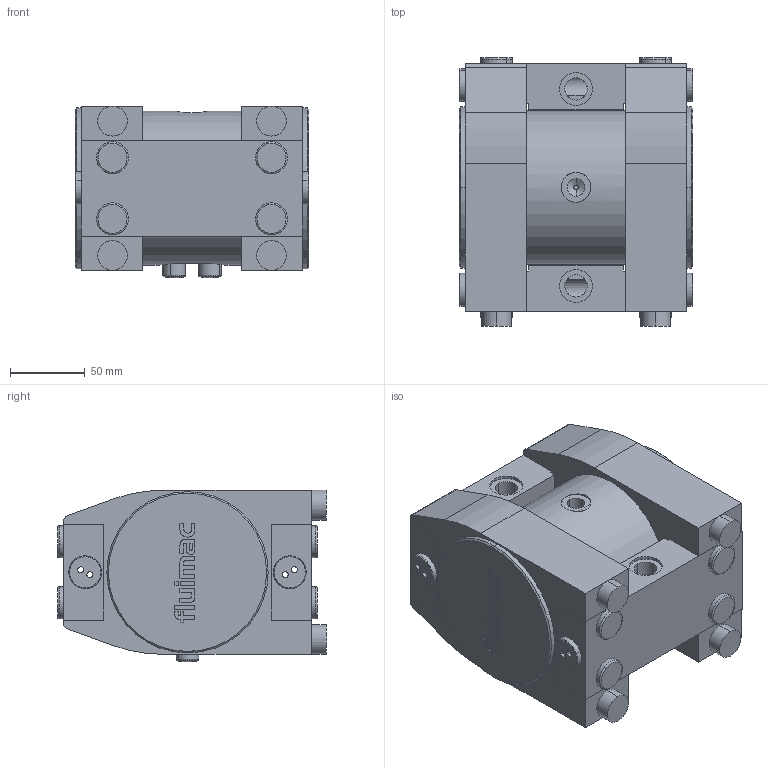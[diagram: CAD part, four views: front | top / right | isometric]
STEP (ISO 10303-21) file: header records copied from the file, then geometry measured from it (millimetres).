
FILE_DESCRIPTION (( 'STEP AP203' ), '1' );
FILE_NAME ('LOTUS 10.STEP', '2024-06-19T10:05:51', ( '' ), ( '' ), 'SwSTEP 2.0', 'SolidWorks 2023', '' );
FILE_SCHEMA (( 'CONFIG_CONTROL_DESIGN' ));
Length unit declared in the file: millimetre
Products named in the file (1): LOTUS 10
Bounding box: 156.5 x 180 x 114.98 mm (x, y, z)
Volume: 443929.9 mm3; surface area: 293060 mm2
Topology: 27 solids, 27 shells, 799 faces, 2014 edges, 1322 vertices
Faces by surface type: plane 407, cylinder 220, bspline 100, torus 36, cone 24, sphere 12
Entity records: 28730 total; most frequent: CARTESIAN_POINT 9593, ORIENTED_EDGE 4028, DIRECTION 3720, EDGE_CURVE 2014, VERTEX_POINT 1322, AXIS2_PLACEMENT_3D 1260, LINE 1200, VECTOR 1200
